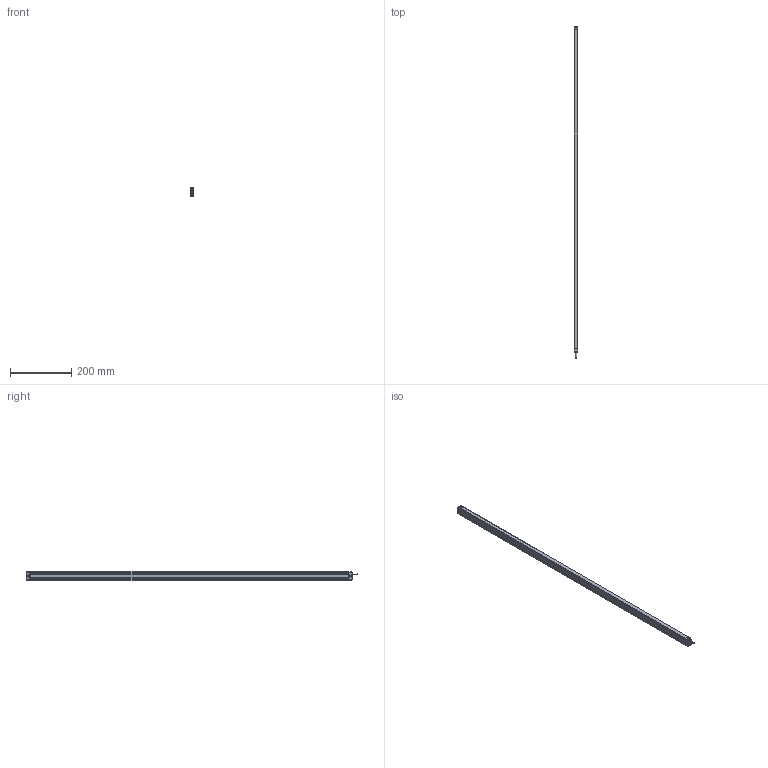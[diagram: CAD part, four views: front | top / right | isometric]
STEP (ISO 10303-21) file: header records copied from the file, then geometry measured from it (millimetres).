
FILE_DESCRIPTION((''),'2;1');
FILE_NAME('EB13-0320_ASM','2021-07-16T09:33:23',('18720616900'),(''),'CREO PARAMETRIC BY PTC INC, 2019010','CREO PARAMETRIC BY PTC INC, 2019010','');
FILE_SCHEMA(('CONFIG_CONTROL_DESIGN'));
Products named in the file (7): EB1300; 000; 0002; 0004; EB13-0320_ASM
Assembly tree (9 placements, depth 2):
  EB13-0320_ASM
    EB1300
    000
    0002
    000
    0004  x4
    000
Bounding box: 13 x 1082.4 x 28 mm (x, y, z)
Surface area: 137684.6 mm2
Topology: 9 solids, 27 shells, 1032 faces, 3520 edges, 2523 vertices
Faces by surface type: cylinder 544, plane 295, bspline 118, torus 40, sphere 31, cone 4
Entity records: 52594 total; most frequent: CARTESIAN_POINT 37957, ORIENTED_EDGE 3370, DIRECTION 2501, EDGE_CURVE 1685, VERTEX_POINT 1150, AXIS2_PLACEMENT_3D 849, VECTOR 803, LINE 803
